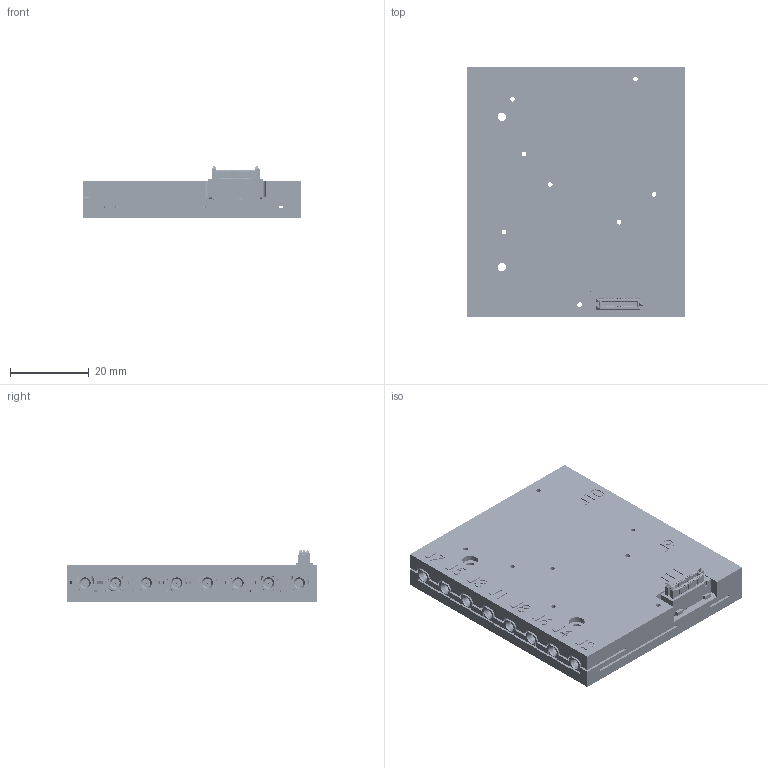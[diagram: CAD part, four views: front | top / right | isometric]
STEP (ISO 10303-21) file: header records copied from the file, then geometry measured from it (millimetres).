
FILE_DESCRIPTION (( 'STEP AP214' ), '1' );
FILE_NAME ('AM3269 Assembly Rev 1.01.STEP', '2026-05-19T21:38:22', ( '' ), ( '' ), 'SwSTEP 2.0', 'SolidWorks 2022', '' );
FILE_SCHEMA (( 'AUTOMOTIVE_DESIGN' ));
Length unit declared in the file: inch
Products named in the file (466): GPPC-EM-ST_p.step; C14.step; U7.step; C57.step; FB25.step; U32.step; C53.step; 6731446880.step; C171.step; R32.step; Extruded-7.step; 6730720816.step; C116.step; FL8.step; FB46.step; 6731446320.step; C18.step; R21.step; C166.step; FL1.step; R13.step; R40.step; FB15.step; C19.step; C151.step; U17.step; R36.step; R23.step; Extruded-14.step; C58.step; FB42.step; C10.step; C67.step; C50.step; FB47.step; R43.step; C130.step; R33.step; C177.step; C101.step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
Assembly tree (1394 placements, depth 5):
  AM3269 Assembly Rev 1.01
    AM3269 PCB Rev 1.01.step
      U40.step
        6731448160.step
          Extruded-38.step
      R43.step
        6731445120.step  x2
          Extruded-8.step
        6731444880.step
          Extruded-7.step
      R42.step
        6731445120.step  x2
          Extruded-8.step
        6731444880.step
          Extruded-7.step
      R41.step
        6731445120.step  x2
          Extruded-8.step
        6731444880.step
          Extruded-7.step
      R40.step
        6731445120.step  x2
          Extruded-8.step
        6731444880.step
          Extruded-7.step
      U10.step
        6731447840.step
          Extruded-0.step
      U9.step
        6731448320.step
          Extruded.step
      U8.step
        6731448320.step
          Extruded.step
      U7.step
        6731448320.step
          Extruded.step
      U6.step
        6731443680.step
          Extruded-2.step
      U4.step
        6731448320.step
          Extruded.step
      U3.step
        6731448320.step
          Extruded.step
      U2.step
        6731448320.step
          Extruded.step
      U1.step
        6731448800.step
          Extruded-1.step
      S2.step
        6731443200.step
          Extruded-4.step
      R9.step
        6731445360.step  x2
          Extruded-6.step
        6731445520.step
          Extruded-5.step
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Bounding box: 55.37 x 63.5 x 13.26 mm (x, y, z)
Volume: 25392.3 mm3; surface area: 33568.3 mm2
Topology: 987 solids, 995 shells, 12375 faces, 30069 edges, 20095 vertices
Faces by surface type: plane 10421, cylinder 1458, cone 300, bspline 127, sphere 64, torus 5
Entity records: 174918 total; most frequent: CARTESIAN_POINT 38142, ORIENTED_EDGE 25736, DIRECTION 25550, EDGE_CURVE 12868, VECTOR 10090, LINE 10090, VERTEX_POINT 8698, AXIS2_PLACEMENT_3D 7730
